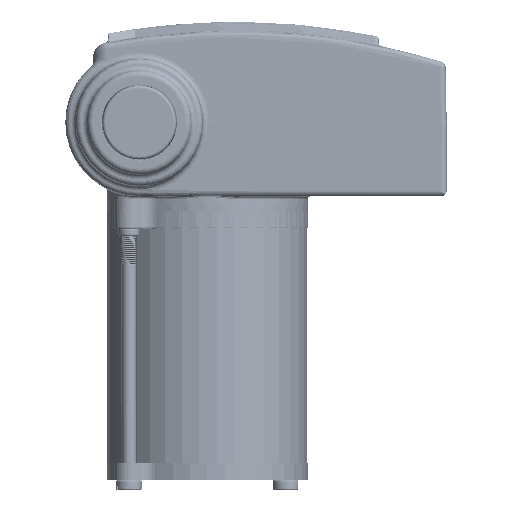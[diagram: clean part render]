
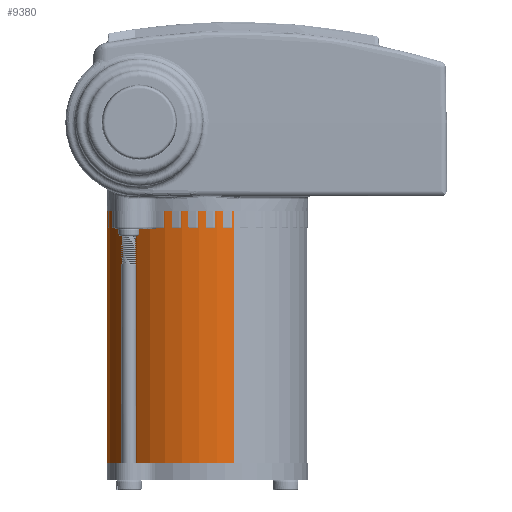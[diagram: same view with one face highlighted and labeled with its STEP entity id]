
A CAD part, front view. The second image highlights one B-rep face of the part: STEP entity #9380.
In plain terms, the highlighted cylindrical face has radius 34 mm (diameter 68 mm), a partial arc.
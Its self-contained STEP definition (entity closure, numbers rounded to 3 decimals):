
#683 = CIRCLE ( 'NONE', #131822, 34. ) ;
#5191 = ORIENTED_EDGE ( 'NONE', *, *, #114183, .F. ) ;
#8981 = CARTESIAN_POINT ( 'NONE',  ( -34., 0., 0. ) ) ;
#9380 = ADVANCED_FACE ( 'NONE', ( #72678 ), #107722, .T. ) ;
#11251 = CIRCLE ( 'NONE', #146244, 34. ) ;
#17793 = DIRECTION ( 'NONE',  ( 0., 0., 1. ) ) ;
#36474 = DIRECTION ( 'NONE',  ( 0., 0., -1. ) ) ;
#45374 = DIRECTION ( 'NONE',  ( 0., 0., -1. ) ) ;
#49006 = VECTOR ( 'NONE', #45374, 1000. ) ;
#50854 = VERTEX_POINT ( 'NONE', #112867 ) ;
#54300 = LINE ( 'NONE', #141377, #100094 ) ;
#59317 = VERTEX_POINT ( 'NONE', #232326 ) ;
#64168 = EDGE_LOOP ( 'NONE', ( #98530, #5191, #223132, #131987 ) ) ;
#68829 = DIRECTION ( 'NONE',  ( 0., 0., -1. ) ) ;
#72678 = FACE_OUTER_BOUND ( 'NONE', #64168, .T. ) ;
#73282 = DIRECTION ( 'NONE',  ( 1., 0., 0. ) ) ;
#76342 = DIRECTION ( 'NONE',  ( 0., 0., 1. ) ) ;
#93215 = DIRECTION ( 'NONE',  ( -1., 0., 0. ) ) ;
#98026 = DIRECTION ( 'NONE',  ( 1., 0., 0. ) ) ;
#98530 = ORIENTED_EDGE ( 'NONE', *, *, #107690, .F. ) ;
#100094 = VECTOR ( 'NONE', #68829, 1000. ) ;
#107690 = EDGE_CURVE ( 'NONE', #50854, #193266, #54300, .T. ) ;
#107722 = CYLINDRICAL_SURFACE ( 'NONE', #139336, 34. ) ;
#112867 = CARTESIAN_POINT ( 'NONE',  ( 34., 0., 85. ) ) ;
#114183 = EDGE_CURVE ( 'NONE', #59317, #50854, #683, .T. ) ;
#119029 = LINE ( 'NONE', #230177, #49006 ) ;
#124413 = CARTESIAN_POINT ( 'NONE',  ( 34., 0., 0. ) ) ;
#129963 = EDGE_CURVE ( 'NONE', #167339, #193266, #11251, .T. ) ;
#131822 = AXIS2_PLACEMENT_3D ( 'NONE', #145835, #17793, #73282 ) ;
#131987 = ORIENTED_EDGE ( 'NONE', *, *, #129963, .T. ) ;
#139336 = AXIS2_PLACEMENT_3D ( 'NONE', #217725, #36474, #93215 ) ;
#141377 = CARTESIAN_POINT ( 'NONE',  ( 34., 0., 85. ) ) ;
#145835 = CARTESIAN_POINT ( 'NONE',  ( 0., 0., 85. ) ) ;
#146244 = AXIS2_PLACEMENT_3D ( 'NONE', #150059, #76342, #98026 ) ;
#150059 = CARTESIAN_POINT ( 'NONE',  ( 0., 0., 0. ) ) ;
#167339 = VERTEX_POINT ( 'NONE', #8981 ) ;
#193266 = VERTEX_POINT ( 'NONE', #124413 ) ;
#217725 = CARTESIAN_POINT ( 'NONE',  ( 0., 0., 85. ) ) ;
#219498 = EDGE_CURVE ( 'NONE', #59317, #167339, #119029, .T. ) ;
#223132 = ORIENTED_EDGE ( 'NONE', *, *, #219498, .T. ) ;
#230177 = CARTESIAN_POINT ( 'NONE',  ( -34., 0., 85. ) ) ;
#232326 = CARTESIAN_POINT ( 'NONE',  ( -34., 0., 85. ) ) ;
